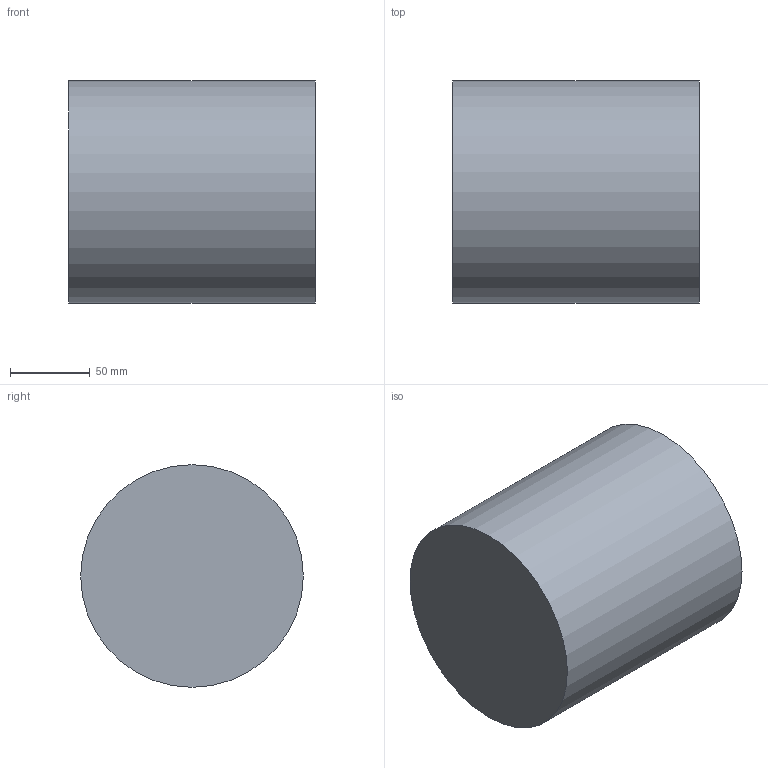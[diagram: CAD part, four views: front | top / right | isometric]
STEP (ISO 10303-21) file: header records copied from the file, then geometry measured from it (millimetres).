
FILE_DESCRIPTION(/* description */ (''),/* implementation_level */ '2;1');
FILE_NAME(/* name */ 'Endkappe 139.7.stp',/* time_stamp */ '2024-03-12T16:00:50+01:00',/* author */ ('peter.csaszar'),/* organization */ (''),/* preprocessor_version */ 'ST-DEVELOPER v20',/* originating_system */ 'Autodesk Inventor 2024',/* authorisation */ '');
FILE_SCHEMA (('AUTOMOTIVE_DESIGN { 1 0 10303 214 3 1 1 }'));
Length unit declared in the file: millimetre
Products named in the file (1): Bauteil1
Bounding box: 155 x 139.7 x 139.7 mm (x, y, z)
Volume: 210518 mm3; surface area: 163078 mm2
Topology: 1 solids, 1 shells, 5 faces, 6 edges, 4 vertices
Faces by surface type: plane 3, cylinder 2
Full cylindrical faces by diameter (mm): 134.5 x1, 139.7 x1
Entity records: 147 total; most frequent: DIRECTION 22, CARTESIAN_POINT 16, ORIENTED_EDGE 12, AXIS2_PLACEMENT_3D 10, EDGE_LOOP 6, EDGE_CURVE 6, FACE_OUTER_BOUND 5, ADVANCED_FACE 5
